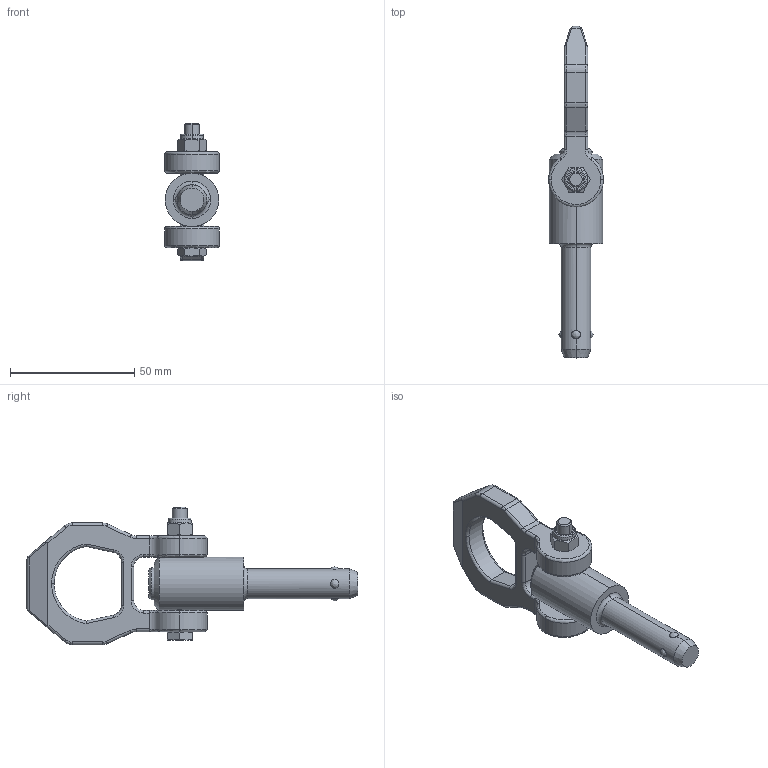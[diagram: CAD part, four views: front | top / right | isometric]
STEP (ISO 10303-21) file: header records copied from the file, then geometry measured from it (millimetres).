
FILE_DESCRIPTION (( 'STEP AP214' ), '1' );
FILE_NAME ('1130-12-35-NI.step', '2023-05-11T09:32:21', ( '' ), ( '' ), 'SwSTEP 2.0', 'SolidWorks 2022', '' );
FILE_SCHEMA (( 'AUTOMOTIVE_DESIGN' ));
Length unit declared in the file: millimetre
Products named in the file (3): 1130-12-35-NI; Kopie von bolzen1^WB1130_NI_12-35-NI; Kopie von ring2^WB1130_NI
Assembly tree (2 placements, depth 2):
  1130-12-35-NI
    Kopie von bolzen1^WB1130_NI_12-35-NI
    Kopie von ring2^WB1130_NI
Bounding box: 22 x 133.5 x 55.25 mm (x, y, z)
Volume: 37259.1 mm3; surface area: 13120.1 mm2
Topology: 2 solids, 2 shells, 244 faces, 607 edges, 375 vertices
Faces by surface type: plane 83, cylinder 77, bspline 52, cone 26, torus 6
Entity records: 9664 total; most frequent: CARTESIAN_POINT 4348, ORIENTED_EDGE 1214, DIRECTION 895, EDGE_CURVE 607, VERTEX_POINT 375, AXIS2_PLACEMENT_3D 333, EDGE_LOOP 258, FACE_OUTER_BOUND 244
